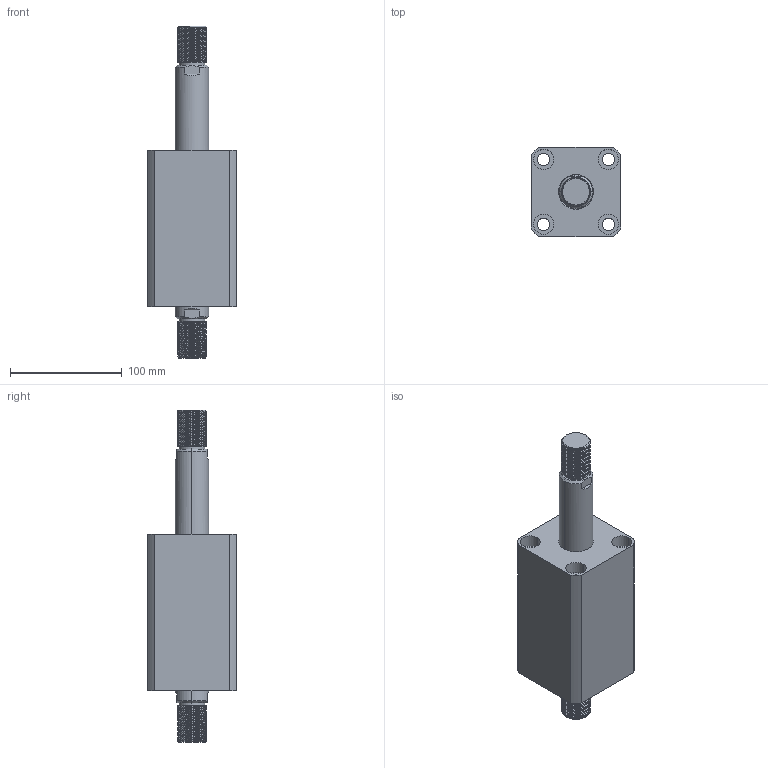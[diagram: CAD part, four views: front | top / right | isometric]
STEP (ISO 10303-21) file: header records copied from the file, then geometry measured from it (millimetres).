
FILE_DESCRIPTION (( 'STEP AP203' ), '1' );
FILE_NAME ('CHTB-SW50-65W.STEP', '2018-05-21T06:49:08', ( '' ), ( '' ), 'SwSTEP 2.0', 'SolidWorks 2015', '' );
FILE_SCHEMA (( 'CONFIG_CONTROL_DESIGN' ));
Length unit declared in the file: millimetre
Products named in the file (4): 活塞杆SW50-65W; CHTB-SW50-65W; ヶ裔; 掛极SW50-65W
Assembly tree (3 placements, depth 2):
  CHTB-SW50-65W
    掛极SW50-65W
    活塞杆SW50-65W
    ヶ裔
Bounding box: 80 x 80 x 297 mm (x, y, z)
Volume: 822107.8 mm3; surface area: 149344.8 mm2
Topology: 3 solids, 3 shells, 314 faces, 794 edges, 514 vertices
Faces by surface type: cylinder 202, plane 51, cone 29, torus 24, bspline 8
Entity records: 17377 total; most frequent: CARTESIAN_POINT 10049, ORIENTED_EDGE 1580, DIRECTION 1358, EDGE_CURVE 790, AXIS2_PLACEMENT_3D 549, VERTEX_POINT 514, EDGE_LOOP 362, FACE_OUTER_BOUND 314
